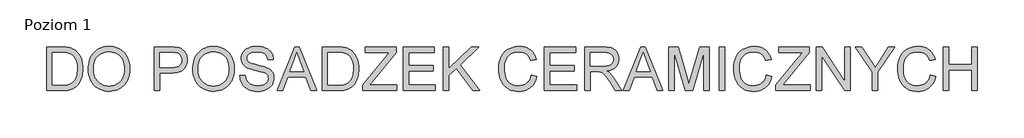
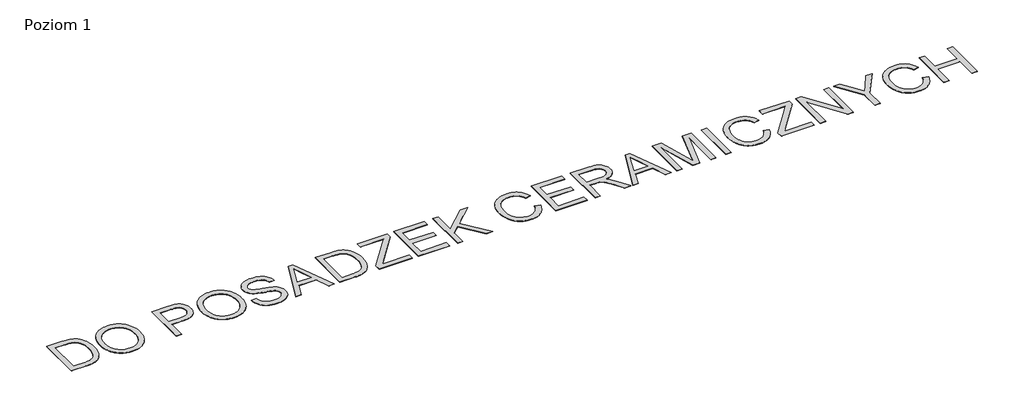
# One storey, part 2 of 4: 1 proxy.
"""IFC4 building model written with IfcOpenShell, lengths in millimetres."""

import ifcopenshell
import ifcopenshell.guid

model = None  # the IFC model being written
_history = None  # IfcOwnerHistory: only IFC2X3 demands one
_inside = {}  # id of a spatial element -> (the spatial element, [elements in it])
_under = {}  # id of a project, library or spatial element -> (it, [spatial elements below it])
_declared = {}  # id of a project -> (the project, [libraries it declares])
_typed = {}  # id of a type object -> (the type object, [elements of that type])
_made_of = {}  # id of a material, layer set ... -> (it, [elements and type objects made of it])


def new_model(schema):
    """Start an empty IFC model of exactly this schema.

    Asked for "IFC4X3", IfcOpenShell would pick the latest addendum, in which some entities
    have other attributes; the version numbers below select the first issue.
    IFC2X3 requires an IfcOwnerHistory on every rooted entity: one is made here for all.
    """
    global model, _history
    if schema == "IFC4X3":
        model = ifcopenshell.file(schema_version=(4, 3, 0, 0))
    else:
        model = ifcopenshell.file(schema=schema)
    _inside.clear()
    _under.clear()
    _declared.clear()
    _typed.clear()
    _made_of.clear()
    _history = None
    if model.schema == "IFC2X3":
        org = make("IfcOrganization", Name="unknown")
        user = make(
            "IfcPersonAndOrganization",
            ThePerson=make("IfcPerson", FamilyName="unknown"),
            TheOrganization=org,
        )
        app = make(
            "IfcApplication",
            ApplicationDeveloper=org,
            Version="unknown",
            ApplicationFullName="unknown",
            ApplicationIdentifier="unknown",
        )
        _history = make(
            "IfcOwnerHistory",
            OwningUser=user,
            OwningApplication=app,
            ChangeAction="ADDED",
            CreationDate=0,
        )
    return model


def make(cls, **values):
    """One entity of the class cls with the attributes given. An attribute that is None is left unset."""
    return model.create_entity(
        cls, **{name: value for name, value in values.items() if value is not None}
    )


def rooted(cls, **values):
    """An entity with a GlobalId (a new one), such as an element, a storey or a relation."""
    return make(cls, GlobalId=ifcopenshell.guid.new(), OwnerHistory=_history, **values)


def si_unit(unit_type, name, prefix=None):
    """IfcSIUnit, for example si_unit("LENGTHUNIT", "METRE", prefix="MILLI")."""
    return make("IfcSIUnit", UnitType=unit_type, Prefix=prefix, Name=name)


def assignment(units):
    """IfcUnitAssignment: the units of a project."""
    return None if units is None else make("IfcUnitAssignment", Units=units)


def point(xyz):
    """IfcCartesianPoint."""
    return None if xyz is None else make("IfcCartesianPoint", Coordinates=xyz)


def direction(xyz):
    """IfcDirection."""
    return None if xyz is None else make("IfcDirection", DirectionRatios=xyz)


def frame(location, z_axis=None, x_axis=None):
    """IfcAxis2Placement3D, a coordinate frame: its origin and axes. An axis left out is left unset."""
    return make(
        "IfcAxis2Placement3D",
        Location=point(location),
        Axis=direction(z_axis),
        RefDirection=direction(x_axis),
    )


def origin():
    """The frame at (0, 0, 0) with its axes left unset."""
    return frame((0.0, 0.0, 0.0))


def origin_with_axes():
    """The frame at (0, 0, 0) with the z axis (0, 0, 1) and the x axis (1, 0, 0) written out."""
    return frame((0.0, 0.0, 0.0), z_axis=(0.0, 0.0, 1.0), x_axis=(1.0, 0.0, 0.0))


def place(relative_to, where):
    """IfcLocalPlacement: puts the frame where relative to a parent placement (None: the world)."""
    return make(
        "IfcLocalPlacement", PlacementRelTo=relative_to, RelativePlacement=where
    )


def context(
    kind, dimensions, precision=None, world=None, true_north=None, identifier=None
):
    """IfcGeometricRepresentationContext, for example the 3D "Model" context."""
    return make(
        "IfcGeometricRepresentationContext",
        ContextIdentifier=identifier,
        ContextType=kind,
        CoordinateSpaceDimension=dimensions,
        Precision=precision,
        WorldCoordinateSystem=world,
        TrueNorth=true_north,
    )


def project(units=None, contexts=None):
    """IfcProject with its units and contexts."""
    return rooted(
        "IfcProject",
        Name="project",
        RepresentationContexts=contexts,
        UnitsInContext=assignment(units),
    )


def spatial(cls, under=None, at=None, **own):
    """A site, building, storey or space (cls), placed at a placement, below another one or the project."""
    s = rooted(cls, ObjectPlacement=at, **own)
    if under is not None:
        _under.setdefault(under.id(), (under, []))[1].append(s)
    return s


def polyline(points):
    """IfcPolyline through the points."""
    return make("IfcPolyline", Points=[point(p) for p in points])


def outline(outer, holes=None, kind="AREA"):
    """IfcArbitraryClosedProfileDef: a profile drawn as a closed curve; with holes, ...WithVoids."""
    if holes is None:
        return make("IfcArbitraryClosedProfileDef", ProfileType=kind, OuterCurve=outer)
    return make(
        "IfcArbitraryProfileDefWithVoids",
        ProfileType=kind,
        OuterCurve=outer,
        InnerCurves=holes,
    )


def extrude(swept, where, along, depth):
    """IfcExtrudedAreaSolid: the profile swept, set in the frame where, extruded along a direction by depth."""
    return make(
        "IfcExtrudedAreaSolid",
        SweptArea=swept,
        Position=where,
        ExtrudedDirection=direction(along),
        Depth=depth,
    )


def shape(context_of_items, identifier, shape_type, items):
    """IfcShapeRepresentation: the items that make up one representation, for example the "Body"."""
    return make(
        "IfcShapeRepresentation",
        ContextOfItems=context_of_items,
        RepresentationIdentifier=identifier,
        RepresentationType=shape_type,
        Items=items,
    )


def made_of(thing, what):
    """Note that an element or type object is made of a material, layer set ...; save() writes the relation."""
    if what is not None:
        _made_of.setdefault(what.id(), (what, []))[1].append(thing)
    return thing


def element(
    cls,
    number,
    at=None,
    inside=None,
    cuts=None,
    type_object=None,
    material=None,
    context=None,
    identifier="Body",
    shape_type=None,
    held_by="IfcProductDefinitionShape",
    body=None,
    shapes=None,
    **own,
):
    """One element of the class cls, such as IfcWall. Its Tag is "e" and its number.

    at: its placement. inside: the storey or other place that contains it. cuts: it is an
    opening in that element (IfcRelVoidsElement). A single representation is given by context,
    identifier, shape_type and body (its items); several are given by shapes. held_by: the class
    of the entity that holds the representations. save() writes the other relations.
    """
    e = rooted(cls, Tag="e%d" % number, ObjectPlacement=at, **own)
    if body is not None:
        shapes = [shape(context, identifier, shape_type, body)]
    if shapes is not None:
        e.Representation = make(held_by, Representations=shapes)
    if inside is not None:
        _inside.setdefault(inside.id(), (inside, []))[1].append(e)
    if cuts is not None:
        rooted(
            "IfcRelVoidsElement", RelatingBuildingElement=cuts, RelatedOpeningElement=e
        )
    if type_object is not None:
        _typed.setdefault(type_object.id(), (type_object, []))[1].append(e)
    return made_of(e, material)


def aggregate(whole, parts):
    """IfcRelAggregates: a whole, such as a stair, and the parts it consists of."""
    return rooted("IfcRelAggregates", RelatingObject=whole, RelatedObjects=parts)


def save(model, path):
    """Write the relations noted so far, then the file.

    IfcRelAggregates (storeys below a building ...), IfcRelContainedInSpatialStructure (elements
    in a storey), IfcRelDefinesByType, IfcRelAssociatesMaterial and IfcRelDeclares: one each for
    every whole, place, type object, material and project.
    """
    for whole, parts in _under.values():
        aggregate(whole, parts)
    for where, things in _inside.values():
        rooted(
            "IfcRelContainedInSpatialStructure",
            RelatedElements=things,
            RelatingStructure=where,
        )
    for kind, things in _typed.values():
        rooted("IfcRelDefinesByType", RelatedObjects=things, RelatingType=kind)
    for what, things in _made_of.values():
        rooted("IfcRelAssociatesMaterial", RelatedObjects=things, RelatingMaterial=what)
    for by, libraries in _declared.values():
        rooted("IfcRelDeclares", RelatingContext=by, RelatedDefinitions=libraries)
    model.write(path)


model = new_model("IFC4")

# Units and contexts
model_context = context("Model", 3, world=origin())
ifc_project = project(units=[si_unit("LENGTHUNIT", "METRE", prefix="MILLI")], contexts=[model_context])

# Site, building, storey
site = spatial("IfcSite", under=ifc_project)
building = spatial("IfcBuilding", under=site)
storey = spatial("IfcBuildingStorey", under=building, Name="Poziom 1", Elevation=0.0)

# Proxy
placement = place(None, origin())
element("IfcBuildingElementProxy", 1, Name="1500 mm Arial", ObjectType="1500 mm Arial", at=placement, inside=storey, context=model_context, shape_type="SweptSolid", body=[
    extrude(outline(polyline([(-106640.2444667, 68415.4638287), (-106640.2444667, 69922.3084809), (-106120.4272075, 69922.3084809), (-105965.0890351, 69916.8822215), (-105903.0779263, 69910.0993972), (-105851.5054691, 69900.6034432), (-105789.1034856, 69882.6921885), (-105731.3919976, 69858.7568662), (-105678.3710051, 69828.7974763), (-105630.040508, 69792.8140186), (-105574.1914226, 69738.9193063), (-105525.8379328, 69678.0348361), (-105484.9800387, 69610.160608), (-105451.6177403, 69535.296622), (-105425.7050523, 69454.1326568), (-105407.1959894, 69367.3584912), (-105396.0905516, 69274.9741251), (-105392.3887391, 69176.9795587), (-105394.8949352, 69093.6887757), (-105402.4135234, 69015.2494365), (-105414.9445039, 68941.6615412), (-105432.4878765, 68872.9250897), (-105453.962988, 68809.4769418), (-105478.2891849, 68751.7539575), (-105505.4664673, 68699.7561367), (-105535.4948352, 68653.4834795), (-105567.6845098, 68612.3841629), (-105601.3457123, 68575.9063638), (-105636.4784429, 68544.0500823), (-105673.0827014, 68516.8153183), (-105712.3426081, 68493.3973301), (-105755.4422831, 68472.9913757), (-105802.3817264, 68455.5974551), (-105853.160938, 68441.2155683), (-105907.8259033, 68429.9491822), (-105966.4226073, 68421.9017636), (-106028.9510502, 68417.0733124), (-106095.4112319, 68415.4638287), (-106640.2444667, 68415.4638287)]), holes=[polyline([(-106451.8888852, 68603.8194102), (-106118.5877976, 68603.8194102), (-106045.4942436, 68605.5208644), (-105980.7240199, 68610.6252271), (-105924.2771262, 68619.1324982), (-105876.1535627, 68631.0426778), (-105834.4449415, 68646.0568618), (-105797.2428748, 68663.8761459), (-105764.5473624, 68684.5005303), (-105736.3584046, 68707.9300148), (-105701.6050523, 68745.6954009), (-105670.9213947, 68789.461862), (-105644.3074316, 68839.2293982), (-105621.7631631, 68894.9980094), (-105603.8174195, 68956.8826587), (-105590.9990312, 69024.9983094), (-105583.3079983, 69099.3449614), (-105580.7443206, 69179.9226146), (-105585.7682091, 69289.2755377), (-105600.8398746, 69385.2007679), (-105612.1436237, 69428.1279983), (-105625.9593171, 69467.6983054), (-105642.2869547, 69503.9116893), (-105661.1265366, 69536.76815), (-105703.4904476, 69593.9738002), (-105750.1999646, 69640.8787546), (-105801.2550878, 69677.4830131), (-105856.655817, 69703.7865758), (-105904.5264616, 69716.9843423), (-105964.9970646, 69726.4113185), (-106038.0676259, 69732.0675041), (-106123.7381455, 69733.9528994), (-106451.8888852, 69733.9528994), (-106451.8888852, 68603.8194102)])]), origin_with_axes(), (0.0, 0.0, 1.0), 10.0),
    extrude(outline(polyline([(-105204.0331575, 69149.020527), (-105200.8946643, 69239.9276169), (-105191.4791845, 69325.7648331), (-105175.7867181, 69406.5321755), (-105153.8172652, 69482.2296442), (-105125.5708258, 69552.8572391), (-105091.0473998, 69618.4149603), (-105050.2469872, 69678.9028077), (-105003.1695882, 69734.3207814), (-104951.1315303, 69783.8986284), (-104895.4491415, 69826.8660958), (-104836.1224216, 69863.2231836), (-104773.1513707, 69892.9698918), (-104706.5359888, 69916.1062204), (-104636.2762759, 69932.6321694), (-104562.3722319, 69942.5477388), (-104484.823857, 69945.8529286), (-104433.4985705, 69944.3009264), (-104383.4493747, 69939.6449199), (-104334.6762695, 69931.8849091), (-104287.1792551, 69921.0208939), (-104240.9583313, 69907.0528744), (-104196.0134981, 69889.9808506), (-104152.3447557, 69869.8048224), (-104109.9521039, 69846.5247899), (-104069.4390992, 69820.468398), (-104031.4092979, 69791.9632915), (-103995.8627001, 69761.0094705), (-103962.7993058, 69727.606935), (-103932.219115, 69691.7556849), (-103904.1221276, 69653.4557203), (-103878.5083437, 69612.7070412), (-103855.3777632, 69569.5096475), (-103817.0720505, 69477.6771045), (-103789.7108271, 69379.866479), (-103773.2940931, 69276.0777711), (-103767.8218484, 69166.3109808), (-103773.5815009, 69055.0956551), (-103790.8604583, 68949.9043972), (-103803.8196764, 68899.5677935), (-103819.6587208, 68850.7372068), (-103838.3775913, 68803.412637), (-103859.9762882, 68757.5940842), (-103884.2162628, 68713.8966009), (-103910.8589666, 68672.93524), (-103939.9043998, 68634.7100015), (-103971.3525622, 68599.2208852), (-104005.2034539, 68566.4678914), (-104041.4570749, 68536.4510198), (-104080.1134252, 68509.1702706), (-104121.1725047, 68484.6256438), (-104207.3603584, 68444.0666538), (-104296.8821427, 68415.0959467), (-104389.7378575, 68397.7135224), (-104485.927503, 68391.919381), (-104538.2012352, 68393.5202425), (-104589.0724174, 68398.3228269), (-104638.5410494, 68406.3271344), (-104686.6071313, 68417.5331649), (-104733.2706632, 68431.9409183), (-104778.5316449, 68449.5503948), (-104822.3900765, 68470.3615942), (-104864.845958, 68494.3745166), (-104905.3359701, 68521.1551762), (-104943.2967935, 68550.2695873), (-104978.7284281, 68581.7177497), (-105011.6308741, 68615.4996635), (-105042.0041313, 68651.6153288), (-105069.8481998, 68690.0647454), (-105095.1630796, 68730.8479135), (-105117.9487707, 68773.964833), (-105155.6106899, 68863.8315066), (-105182.5120608, 68956.2963468), (-105198.6528834, 69051.3593536), (-105204.0331575, 69149.020527)]), holes=[polyline([(-105015.677576, 69147.1811171), (-105013.3237061, 69082.9914571), (-105006.2620962, 69022.3081723), (-104994.4927464, 68965.1312629), (-104978.0156568, 68911.4607287), (-104956.8308272, 68861.2965697), (-104930.9382577, 68814.638786), (-104900.3379483, 68771.4873776), (-104865.029899, 68731.8423445), (-104826.1694892, 68696.3187394), (-104784.9120982, 68665.5316149), (-104741.2577262, 68639.4809711), (-104695.206373, 68618.166808), (-104646.7580386, 68601.5891256), (-104595.9127232, 68589.7479239), (-104542.6704266, 68582.6432028), (-104487.0311489, 68580.2749625), (-104430.3744476, 68582.6661955), (-104376.2871721, 68589.8398944), (-104324.7693224, 68601.7960592), (-104275.8208985, 68618.53469), (-104229.4419004, 68640.0557867), (-104185.6323281, 68666.3593494), (-104144.3921816, 68697.445378), (-104105.7214609, 68733.3138725), (-104070.6720787, 68773.5797065), (-104040.2959474, 68817.8577535), (-104014.593067, 68866.1480135), (-103993.5634377, 68918.4504866), (-103977.2070593, 68974.7651726), (-103965.5239318, 69035.0920717), (-103958.5140554, 69099.4311837), (-103956.1774299, 69167.7825088), (-103960.1781466, 69253.9818588), (-103972.1802967, 69334.5250231), (-103992.1838802, 69409.4120018), (-104020.1888971, 69478.6427947), (-104055.8849469, 69541.3091933), (-104098.9616293, 69596.5029889), (-104149.4189442, 69644.2241815), (-104207.2568916, 69684.472771), (-104270.6820468, 69716.421023), (-104337.9009851, 69739.2412031), (-104408.9137065, 69752.9333111), (-104483.720211, 69757.4973471), (-104537.2183005, 69755.2986773), (-104588.8194985, 69748.7026681), (-104638.5238049, 69737.7093194), (-104686.3312198, 69722.3186313), (-104732.2417432, 69702.5306036), (-104776.255375, 69678.3452365), (-104818.3721153, 69649.76253), (-104858.5919641, 69616.7824839), (-104895.4089044, 69578.6635862), (-104927.3169193, 69534.6643248), (-104954.3160088, 69484.7846996), (-104976.406173, 69429.0247106), (-104993.5874118, 69367.3843579), (-105005.8597253, 69299.8636414), (-105013.2231133, 69226.4625611), (-105015.677576, 69147.1811171)])]), origin_with_axes(), (0.0, 0.0, 1.0), 10.0),
    extrude(outline(polyline([(-102920.2217315, 68415.4638287), (-102920.2217315, 69922.3084809), (-102361.7768628, 69922.3084809), (-102231.7305775, 69918.7216314), (-102136.6330818, 69907.9610831), (-102084.2213938, 69896.6602081), (-102036.2472823, 69881.1516827), (-101992.7107475, 69861.435507), (-101953.6117892, 69837.511681), (-101918.5365402, 69808.8858633), (-101887.0711333, 69775.0637123), (-101859.2155685, 69736.0452282), (-101834.9698457, 69691.8304109), (-101815.3341442, 69643.8792921), (-101801.3086432, 69593.6519035), (-101792.8933425, 69541.148245), (-101790.0882423, 69486.3683166), (-101791.9822598, 69439.1931989), (-101797.6643121, 69393.8689875), (-101807.1343994, 69350.3956823), (-101820.3925217, 69308.7732834), (-101837.4386788, 69269.0017909), (-101858.2728708, 69231.0812046), (-101882.8950978, 69195.0115246), (-101911.3053597, 69160.7927509), (-101944.6590359, 69129.5802629), (-101984.1115058, 69102.5294399), (-102029.6627694, 69079.640282), (-102081.3128267, 69060.9127892), (-102139.0616777, 69046.3469614), (-102202.9093225, 69035.9427988), (-102272.8557609, 69029.7003012), (-102348.900993, 69027.6194686), (-102731.86615, 69027.6194686), (-102731.86615, 68415.4638287), (-102920.2217315, 68415.4638287)]), holes=[polyline([(-102731.86615, 69215.9750502), (-102337.8645331, 69215.9750502), (-102247.2735918, 69220.2976636), (-102170.8461073, 69233.2655039), (-102137.9436614, 69242.9913842), (-102108.5820796, 69254.8785712), (-102082.7613621, 69268.9270648), (-102060.4815088, 69285.1368653), (-102024.5900216, 69323.2356444), (-101998.9532451, 69368.3701667), (-101983.5711791, 69420.5404321), (-101978.4438238, 69479.7464407), (-101981.467354, 69523.7083391), (-101990.5379444, 69564.3592996), (-102005.6555952, 69601.6993221), (-102026.8203062, 69635.7284067), (-102052.9054389, 69665.3429073), (-102082.7843547, 69689.439178), (-102116.4570536, 69708.0172187), (-102153.9235355, 69721.0770295), (-102226.5802296, 69730.7339319), (-102342.2791171, 69733.9528994), (-102731.86615, 69733.9528994), (-102731.86615, 69215.9750502)])]), origin_with_axes(), (0.0, 0.0, 1.0), 10.0),
    extrude(outline(polyline([(-101601.7326608, 69149.020527), (-101598.5941675, 69239.9276169), (-101589.1786877, 69325.7648331), (-101573.4862213, 69406.5321755), (-101551.5167684, 69482.2296442), (-101523.270329, 69552.8572391), (-101488.746903, 69618.4149603), (-101447.9464905, 69678.9028077), (-101400.8690914, 69734.3207814), (-101348.8310336, 69783.8986284), (-101293.1486447, 69826.8660958), (-101233.8219248, 69863.2231836), (-101170.8508739, 69892.9698918), (-101104.235492, 69916.1062204), (-101033.9757791, 69932.6321694), (-100960.0717352, 69942.5477388), (-100882.5233602, 69945.8529286), (-100831.1980737, 69944.3009264), (-100781.1488779, 69939.6449199), (-100732.3757728, 69931.8849091), (-100684.8787583, 69921.0208939), (-100638.6578345, 69907.0528744), (-100593.7130014, 69889.9808506), (-100550.0442589, 69869.8048224), (-100507.6516071, 69846.5247899), (-100467.1386024, 69820.468398), (-100429.1088011, 69791.9632915), (-100393.5622034, 69761.0094705), (-100360.498809, 69727.606935), (-100329.9186182, 69691.7556849), (-100301.8216308, 69653.4557203), (-100276.2078469, 69612.7070412), (-100253.0772665, 69569.5096475), (-100214.7715537, 69477.6771045), (-100187.4103303, 69379.866479), (-100170.9935963, 69276.0777711), (-100165.5213516, 69166.3109808), (-100171.2810041, 69055.0956551), (-100188.5599615, 68949.9043972), (-100201.5191796, 68899.5677935), (-100217.358224, 68850.7372068), (-100236.0770946, 68803.412637), (-100257.6757914, 68757.5940842), (-100281.915766, 68713.8966009), (-100308.5584699, 68672.93524), (-100337.603903, 68634.7100015), (-100369.0520654, 68599.2208852), (-100402.9029571, 68566.4678914), (-100439.1565781, 68536.4510198), (-100477.8129284, 68509.1702706), (-100518.872008, 68484.6256438), (-100605.0598617, 68444.0666538), (-100694.5816459, 68415.0959467), (-100787.4373608, 68397.7135224), (-100883.6270062, 68391.919381), (-100935.9007384, 68393.5202425), (-100986.7719206, 68398.3228269), (-101036.2405526, 68406.3271344), (-101084.3066346, 68417.5331649), (-101130.9701664, 68431.9409183), (-101176.2311481, 68449.5503948), (-101220.0895797, 68470.3615942), (-101262.5454612, 68494.3745166), (-101303.0354733, 68521.1551762), (-101340.9962967, 68550.2695873), (-101376.4279314, 68581.7177497), (-101409.3303773, 68615.4996635), (-101439.7036345, 68651.6153288), (-101467.547703, 68690.0647454), (-101492.8625828, 68730.8479135), (-101515.6482739, 68773.964833), (-101553.3101932, 68863.8315066), (-101580.2115641, 68956.2963468), (-101596.3523866, 69051.3593536), (-101601.7326608, 69149.020527)]), holes=[polyline([(-101413.3770792, 69147.1811171), (-101411.0232093, 69082.9914571), (-101403.9615994, 69022.3081723), (-101392.1922497, 68965.1312629), (-101375.71516, 68911.4607287), (-101354.5303304, 68861.2965697), (-101328.6377609, 68814.638786), (-101298.0374515, 68771.4873776), (-101262.7294022, 68731.8423445), (-101223.8689924, 68696.3187394), (-101182.6116015, 68665.5316149), (-101138.9572294, 68639.4809711), (-101092.9058762, 68618.166808), (-101044.4575419, 68601.5891256), (-100993.6122264, 68589.7479239), (-100940.3699299, 68582.6432028), (-100884.7306522, 68580.2749625), (-100828.0739508, 68582.6661955), (-100773.9866753, 68589.8398944), (-100722.4688256, 68601.7960592), (-100673.5204017, 68618.53469), (-100627.1414036, 68640.0557867), (-100583.3318313, 68666.3593494), (-100542.0916848, 68697.445378), (-100503.4209642, 68733.3138725), (-100468.3715819, 68773.5797065), (-100437.9954506, 68817.8577535), (-100412.2925703, 68866.1480135), (-100391.2629409, 68918.4504866), (-100374.9065625, 68974.7651726), (-100363.2234351, 69035.0920717), (-100356.2135586, 69099.4311837), (-100353.8769331, 69167.7825088), (-100357.8776498, 69253.9818588), (-100369.8797999, 69334.5250231), (-100389.8833834, 69409.4120018), (-100417.8884003, 69478.6427947), (-100453.5844501, 69541.3091933), (-100496.6611325, 69596.5029889), (-100547.1184474, 69644.2241815), (-100604.9563948, 69684.472771), (-100668.3815501, 69716.421023), (-100735.6004884, 69739.2412031), (-100806.6132098, 69752.9333111), (-100881.4197142, 69757.4973471), (-100934.9178037, 69755.2986773), (-100986.5190017, 69748.7026681), (-101036.2233082, 69737.7093194), (-101084.0307231, 69722.3186313), (-101129.9412464, 69702.5306036), (-101173.9548783, 69678.3452365), (-101216.0716185, 69649.76253), (-101256.2914673, 69616.7824839), (-101293.1084076, 69578.6635862), (-101325.0164225, 69534.6643248), (-101352.0155121, 69484.7846996), (-101374.1056763, 69429.0247106), (-101391.2869151, 69367.3843579), (-101403.5592285, 69299.8636414), (-101410.9226166, 69226.4625611), (-101413.3770792, 69147.1811171)])]), origin_with_axes(), (0.0, 0.0, 1.0), 10.0),
    extrude(outline(polyline([(-99977.1657701, 68933.4416779), (-99788.8101885, 68933.4416779), (-99780.1879543, 68878.6157643), (-99767.1971213, 68828.917206), (-99749.8376897, 68784.346003), (-99728.1096593, 68744.9021553), (-99700.9093843, 68709.7924174), (-99667.1332186, 68678.2235437), (-99626.7811623, 68650.1955342), (-99579.8532153, 68625.7083889), (-99528.0738245, 68605.8312648), (-99473.1674367, 68591.6333191), (-99415.1340519, 68583.1145516), (-99353.9736702, 68580.2749625), (-99299.8720243, 68582.4247729), (-99249.0353311, 68588.8742041), (-99201.4635906, 68599.6232562), (-99157.1568028, 68614.671929), (-99117.2071174, 68633.479896), (-99082.706684, 68655.5068305), (-99053.6555027, 68680.7527324), (-99030.0535735, 68709.2176018), (-99011.7859332, 68739.6713332), (-98998.7376186, 68770.8838212), (-98990.9086299, 68802.8550659), (-98988.298967, 68835.5850671), (-98990.2533401, 68868.1771127), (-98996.1164594, 68898.6308441), (-99005.8883249, 68926.9462614), (-99019.5689366, 68953.1233646), (-99039.2966086, 68977.3001095), (-99067.209655, 68999.6144517), (-99103.3080758, 69020.0663914), (-99147.5918709, 69038.6559285), (-99247.0579654, 69068.2244438), (-99421.8478984, 69110.5768585), (-99519.9689243, 69134.6616329), (-99601.8801497, 69158.1715917), (-99667.5815748, 69181.1067348), (-99717.0731995, 69203.4670623), (-99767.369566, 69233.4724376), (-99810.837123, 69266.834736), (-99847.4758705, 69303.5539576), (-99877.2858084, 69343.6301025), (-99900.3818999, 69386.6493033), (-99916.8791081, 69432.1976928), (-99926.777433, 69480.2752711), (-99930.0768747, 69530.882038), (-99925.9956838, 69586.972546), (-99913.7521112, 69641.2006513), (-99893.3461567, 69693.5663541), (-99864.7778205, 69744.0696542), (-99828.3689993, 69790.6527119), (-99784.4415898, 69831.2576871), (-99732.9955921, 69865.8845799), (-99674.031006, 69894.5333903), (-99609.5366938, 69916.9856883), (-99541.5015173, 69933.023044), (-99469.9254766, 69942.6454574), (-99394.8085717, 69945.8529286), (-99312.8628573, 69942.4960054), (-99235.8835498, 69932.4252358), (-99163.8706492, 69915.6406197), (-99096.8241556, 69892.1421573), (-99035.9856707, 69862.1367821), (-98982.5967961, 69825.8314277), (-98936.657532, 69783.2260941), (-98898.1678782, 69734.3207814), (-98867.426739, 69680.5410322), (-98844.7330184, 69623.3123893), (-98830.0867165, 69562.6348527), (-98823.4878332, 69498.5084225), (-99011.8434147, 69498.5084225), (-99024.4433731, 69558.6111434), (-99046.4243223, 69610.896372), (-99077.7862624, 69655.3641082), (-99118.5291933, 69692.0143519), (-99169.4118718, 69720.6631623), (-99231.1930544, 69741.1265983), (-99303.872741, 69753.4046599), (-99387.4509318, 69757.4973471), (-99473.696267, 69753.4506451), (-99547.3876292, 69741.3105393), (-99608.5250183, 69721.0770295), (-99634.3859729, 69707.9252482), (-99657.1084343, 69692.7501159), (-99694.12656, 69658.6980387), (-99720.5680784, 69621.2890383), (-99736.4329895, 69580.5231148), (-99741.7212932, 69536.400268), (-99737.9734953, 69498.4394446), (-99726.7301019, 69464.0194854), (-99707.9911127, 69433.1403904), (-99681.7565279, 69405.8021597), (-99640.461774, 69379.9124643), (-99575.4386313, 69353.7468574), (-99486.6871, 69327.305339), (-99374.20718, 69300.5879091), (-99260.1177762, 69274.5372653), (-99166.5377937, 69250.0961052), (-99093.4672324, 69227.2644289), (-99040.9060923, 69206.0422363), (-98983.1601154, 69173.8755543), (-98933.530535, 69137.7081557), (-98892.0173511, 69097.5400403), (-98858.6205637, 69053.3712083), (-98832.9492983, 69005.4315858), (-98814.6126801, 68953.9510991), (-98803.6107091, 68898.9297482), (-98799.9433855, 68840.3675331), (-98804.1625321, 68781.4489323), (-98816.819972, 68724.2547784), (-98837.9157052, 68668.7850713), (-98867.4497316, 68615.039811), (-98904.9047173, 68565.0998302), (-98949.763328, 68521.0459613), (-99002.025564, 68482.8782043), (-99061.6914251, 68450.5965592), (-99127.0249682, 68424.9252937), (-99196.2902501, 68406.5886755), (-99269.4872708, 68395.5867046), (-99346.6160303, 68391.919381), (-99442.9666241, 68395.8741124), (-99531.1548362, 68407.7383068), (-99611.1806664, 68427.511964), (-99683.0441149, 68455.1950841), (-99747.1820415, 68490.8336524), (-99804.0313061, 68534.4736541), (-99853.5919086, 68586.1150892), (-99895.8638491, 68645.7579576), (-99929.9159263, 68711.470879), (-99954.8169389, 68781.3224729), (-99970.5668868, 68855.3127391), (-99977.1657701, 68933.4416779)])), origin_with_axes(), (0.0, 0.0, 1.0), 10.0),
    extrude(outline(polyline([(-98692.8897249, 68415.4638287), (-98091.4026628, 69922.3084809), (-97931.0061129, 69922.3084809), (-97329.5190508, 68415.4638287), (-97528.5432102, 68415.4638287), (-97701.0798659, 68886.3527825), (-98321.6967918, 68886.3527825), (-98493.8655655, 68415.4638287), (-98692.8897249, 68415.4638287)]), holes=[polyline([(-98252.5349767, 69074.708364), (-97769.873799, 69074.708364), (-97905.6222552, 69445.1655332), (-98011.2043878, 69733.9528994), (-98105.0142966, 69477.5391487), (-98252.5349767, 69074.708364)])]), origin_with_axes(), (0.0, 0.0, 1.0), 10.0),
    extrude(outline(polyline([(-97128.2875994, 68415.4638287), (-97128.2875994, 69922.3084809), (-96608.4703402, 69922.3084809), (-96453.1321678, 69916.8822215), (-96391.121059, 69910.0993972), (-96339.5486018, 69900.6034432), (-96277.1466183, 69882.6921885), (-96219.4351303, 69858.7568662), (-96166.4141378, 69828.7974763), (-96118.0836407, 69792.8140186), (-96062.2345553, 69738.9193063), (-96013.8810655, 69678.0348361), (-95973.0231714, 69610.160608), (-95939.660873, 69535.296622), (-95913.748185, 69454.1326568), (-95895.2391221, 69367.3584912), (-95884.1336844, 69274.9741251), (-95880.4318718, 69176.9795587), (-95882.9380679, 69093.6887757), (-95890.4566562, 69015.2494365), (-95902.9876366, 68941.6615412), (-95920.5310093, 68872.9250897), (-95942.0061207, 68809.4769418), (-95966.3323177, 68751.7539575), (-95993.5096, 68699.7561367), (-96023.5379679, 68653.4834795), (-96055.7276425, 68612.3841629), (-96089.388845, 68575.9063638), (-96124.5215756, 68544.0500823), (-96161.1258341, 68516.8153183), (-96200.3857408, 68493.3973301), (-96243.4854158, 68472.9913757), (-96290.4248591, 68455.5974551), (-96341.2040707, 68441.2155683), (-96395.869036, 68429.9491822), (-96454.46574, 68421.9017636), (-96516.9941829, 68417.0733124), (-96583.4543646, 68415.4638287), (-97128.2875994, 68415.4638287)]), holes=[polyline([(-96939.9320179, 68603.8194102), (-96606.6309303, 68603.8194102), (-96533.5373763, 68605.5208644), (-96468.7671526, 68610.6252271), (-96412.3202589, 68619.1324982), (-96364.1966954, 68631.0426778), (-96322.4880742, 68646.0568618), (-96285.2860075, 68663.8761459), (-96252.5904952, 68684.5005303), (-96224.4015373, 68707.9300148), (-96189.648185, 68745.6954009), (-96158.9645274, 68789.461862), (-96132.3505643, 68839.2293982), (-96109.8062958, 68894.9980094), (-96091.8605522, 68956.8826587), (-96079.0421639, 69024.9983094), (-96071.351131, 69099.3449614), (-96068.7874533, 69179.9226146), (-96073.8113418, 69289.2755377), (-96088.8830073, 69385.2007679), (-96100.1867564, 69428.1279983), (-96114.0024498, 69467.6983054), (-96130.3300874, 69503.9116893), (-96149.1696693, 69536.76815), (-96191.5335803, 69593.9738002), (-96238.2430973, 69640.8787546), (-96289.2982205, 69677.4830131), (-96344.6989497, 69703.7865758), (-96392.5695943, 69716.9843423), (-96453.0401973, 69726.4113185), (-96526.1107586, 69732.0675041), (-96611.7812782, 69733.9528994), (-96939.9320179, 69733.9528994), (-96939.9320179, 68603.8194102)])]), origin_with_axes(), (0.0, 0.0, 1.0), 10.0),
    extrude(outline(polyline([(-95739.1651856, 68415.4638287), (-95739.1651856, 68610.8091681), (-94968.4524057, 69554.4264857), (-94822.0353717, 69733.9528994), (-95644.9873949, 69733.9528994), (-95644.9873949, 69922.3084809), (-94585.4872488, 69922.3084809), (-94585.4872488, 69733.9528994), (-95429.0406637, 68701.3081389), (-95508.5031747, 68603.8194102), (-94561.9428011, 68603.8194102), (-94561.9428011, 68415.4638287), (-95739.1651856, 68415.4638287)])), origin_with_axes(), (0.0, 0.0, 1.0), 10.0),
    extrude(outline(polyline([(-94350.0427718, 68415.4638287), (-94350.0427718, 69922.3084809), (-93266.998178, 69922.3084809), (-93266.998178, 69733.9528994), (-94161.6871903, 69733.9528994), (-94161.6871903, 69286.6083932), (-93314.0870734, 69286.6083932), (-93314.0870734, 69098.2528117), (-94161.6871903, 69098.2528117), (-94161.6871903, 68603.8194102), (-93243.4537304, 68603.8194102), (-93243.4537304, 68415.4638287), (-94350.0427718, 68415.4638287)])), origin_with_axes(), (0.0, 0.0, 1.0), 10.0),
    extrude(outline(polyline([(-92960.9203581, 68415.4638287), (-92960.9203581, 69922.3084809), (-92772.5647765, 69922.3084809), (-92772.5647765, 69184.7050806), (-92000.0125867, 69922.3084809), (-91736.6090781, 69922.3084809), (-92385.1850356, 69302.795201), (-91713.0646304, 68415.4638287), (-91943.3587594, 68415.4638287), (-92518.7261999, 69175.5080307), (-92772.5647765, 68933.4416779), (-92772.5647765, 68415.4638287), (-92960.9203581, 68415.4638287)])), origin_with_axes(), (0.0, 0.0, 1.0), 10.0),
    extrude(outline(polyline([(-89923.6866059, 68951.1000136), (-89735.3310243, 68902.5395903), (-89752.4202927, 68842.1235948), (-89772.602069, 68785.4036637), (-89795.8763533, 68732.3797971), (-89822.2431457, 68683.0519949), (-89851.7024461, 68637.4202571), (-89884.2542545, 68595.4845837), (-89919.898571, 68557.2449748), (-89958.6353954, 68522.7014303), (-90000.0451125, 68492.0493875), (-90043.7081068, 68465.4842837), (-90089.6243783, 68443.006119), (-90137.7939271, 68424.6148933), (-90188.216753, 68410.3106066), (-90240.8928562, 68400.093259), (-90295.8222366, 68393.9628505), (-90353.0048943, 68391.919381), (-90411.8401468, 68393.465635), (-90467.8645509, 68398.104397), (-90521.0781067, 68405.8356671), (-90571.4808141, 68416.6594451), (-90619.0726732, 68430.5757312), (-90663.8536839, 68447.5845254), (-90705.8238462, 68467.6858275), (-90744.9831601, 68490.8796377), (-90781.6104113, 68517.0050075), (-90815.9843852, 68545.9009886), (-90848.1050819, 68577.5675809), (-90877.9725014, 68612.0047846), (-90905.5866436, 68649.2125995), (-90930.9475087, 68689.1910257), (-90954.0550965, 68731.9400632), (-90974.9094071, 68777.4597119), (-91009.4328331, 68872.9940675), (-91034.0924231, 68971.9773169), (-91048.8881771, 69074.4094599), (-91053.8200951, 69180.2904966), (-91048.2443836, 69293.8970553), (-91031.5172491, 69400.0080182), (-91018.9718983, 69450.2526514), (-91003.6386917, 69498.6233856), (-90985.5176293, 69545.1202209), (-90964.6087112, 69589.7431573), (-90941.1303673, 69632.1156905), (-90915.3010276, 69671.8613164), (-90887.1206919, 69708.9800349), (-90856.5893604, 69743.471846), (-90823.707033, 69775.3367498), (-90788.4737097, 69804.5747461), (-90750.8893906, 69831.1858351), (-90710.9540756, 69855.1700168), (-90626.6631134, 69894.8437907), (-90538.2334788, 69923.1822006), (-90445.6651718, 69940.1852466), (-90348.9581923, 69945.8529286), (-90293.9742044, 69944.0192668), (-90241.2262493, 69938.5182813), (-90190.7143269, 69929.3499722), (-90142.4384373, 69916.5143395), (-90096.3985804, 69900.0113831), (-90052.5947563, 69879.8411031), (-90011.0269649, 69856.0034994), (-89971.6952063, 69828.4985721), (-89934.9328734, 69797.6654624), (-89901.0733595, 69763.8433115), (-89870.1166644, 69727.0321193), (-89842.0627882, 69687.231886), (-89816.9117309, 69644.4426114), (-89794.6634924, 69598.6642956), (-89775.3180728, 69549.8969387), (-89758.875472, 69498.1405405), (-89947.2310536, 69453.2589371), (-89976.8915394, 69527.3296775), (-90012.5301077, 69590.616877), (-90054.1467584, 69643.1205355), (-90101.7414915, 69684.840653), (-90155.5902186, 69716.6279567), (-90215.968851, 69739.3331736), (-90282.8773889, 69752.9563037), (-90356.3158322, 69757.4973471), (-90440.813728, 69752.4619623), (-90518.0919396, 69737.3558078), (-90588.150467, 69712.1788838), (-90650.9893103, 69676.9311901), (-90705.8152239, 69633.1992179), (-90751.8349623, 69582.5694584), (-90789.0485253, 69525.0419114), (-90817.4559132, 69460.616577), (-90838.4596758, 69392.2135185), (-90853.4623634, 69322.7527993), (-90862.463976, 69252.2344193), (-90865.4645135, 69180.6583786), (-90861.912153, 69090.7112308), (-90851.2550715, 69006.6501949), (-90833.4932689, 68928.4752709), (-90808.6267453, 68856.1864589), (-90776.2531297, 68791.2207978), (-90735.9700512, 68735.0153267), (-90687.7775099, 68687.5700457), (-90631.6755056, 68648.8849546), (-90570.3886645, 68618.8680831), (-90506.6416125, 68597.4274605), (-90440.4343497, 68584.563087), (-90371.766876, 68580.2749625), (-90289.8786431, 68586.1150892), (-90251.3918635, 68593.4152475), (-90214.5433083, 68603.6354692), (-90179.3329777, 68616.7757542), (-90145.7608715, 68632.8361026), (-90113.8269899, 68651.8165142), (-90083.5313328, 68673.7169893), (-90055.2417822, 68698.4915424), (-90029.3262201, 68726.0941883), (-90005.7846464, 68756.5249271), (-89984.6170613, 68789.7837588), (-89965.8234647, 68825.8706832), (-89949.4038566, 68864.7857005), (-89923.6866059, 68951.1000136)])), origin_with_axes(), (0.0, 0.0, 1.0), 10.0),
    extrude(outline(polyline([(-89476.3420997, 68415.4638287), (-89476.3420997, 69922.3084809), (-88393.2975059, 69922.3084809), (-88393.2975059, 69733.9528994), (-89287.9865182, 69733.9528994), (-89287.9865182, 69286.6083932), (-88440.3864013, 69286.6083932), (-88440.3864013, 69098.2528117), (-89287.9865182, 69098.2528117), (-89287.9865182, 68603.8194102), (-88369.7530583, 68603.8194102), (-88369.7530583, 68415.4638287), (-89476.3420997, 68415.4638287)])), origin_with_axes(), (0.0, 0.0, 1.0), 10.0),
    extrude(outline(polyline([(-88087.219686, 68415.4638287), (-88087.219686, 69922.3084809), (-87437.9079645, 69922.3084809), (-87344.7073603, 69919.7677959), (-87263.393943, 69912.1457408), (-87193.9677127, 69899.4423156), (-87136.4286694, 69881.6575204), (-87087.4313862, 69857.423294), (-87043.6304361, 69825.3715752), (-87005.0258193, 69785.5023639), (-86971.6175356, 69737.8156603), (-86944.6586831, 69684.875142), (-86925.4023599, 69629.2444865), (-86913.848566, 69570.9236939), (-86909.9973014, 69509.9127643), (-86911.5924147, 69470.4229314), (-86916.3777547, 69432.5195896), (-86924.3533214, 69396.2027389), (-86935.5191148, 69361.4723793), (-86949.8751349, 69328.3285108), (-86967.4213816, 69296.7711334), (-86988.157855, 69266.8002471), (-87012.0845551, 69238.4158519), (-87039.3451857, 69212.0835484), (-87070.0834509, 69188.2689374), (-87104.2993505, 69166.9720188), (-87141.9928846, 69148.1927926), (-87183.1640532, 69131.9312587), (-87227.8128563, 69118.1874173), (-87327.5433659, 69098.2528117), (-87265.4632792, 69057.6938217), (-87220.4897053, 69017.6866548), (-87143.3264568, 68926.1760085), (-87067.8186773, 68823.8128433), (-86816.5552746, 68415.4638287), (-87035.4450617, 68415.4638287), (-87231.5261652, 68727.7956426), (-87309.9770006, 68846.989409), (-87373.1607333, 68934.5453239), (-87425.8138439, 68994.8319858), (-87449.9675961, 69016.3875715), (-87472.672813, 69032.2179936), (-87517.0485787, 69054.1529575), (-87562.2520788, 69068.0864881), (-87606.3059478, 69073.052895), (-87671.5130314, 69074.708364), (-87898.8641044, 69074.708364), (-87898.8641044, 68415.4638287), (-88087.219686, 68415.4638287)]), holes=[polyline([(-87898.8641044, 69263.0639455), (-87477.271338, 69263.0639455), (-87413.340345, 69264.7309108), (-87356.1921763, 69269.7318067), (-87305.8268319, 69278.0666332), (-87262.2443118, 69289.7353902), (-87224.4674294, 69305.0714709), (-87191.5189982, 69324.4082682), (-87163.3990182, 69347.7457823), (-87140.1074894, 69375.0840131), (-87121.8398491, 69405.077892), (-87108.7915345, 69436.3823505), (-87100.9625458, 69468.9973887), (-87098.3528829, 69502.9230064), (-87103.3307862, 69551.0925551), (-87118.2644959, 69594.8015347), (-87143.1540121, 69634.0499451), (-87177.9993349, 69668.8377862), (-87199.3566091, 69684.0991409), (-87223.605206, 69697.3256482), (-87280.7763673, 69717.6741211), (-87349.5128188, 69729.8832048), (-87429.8145606, 69733.9528994), (-87898.8641044, 69733.9528994), (-87898.8641044, 69263.0639455)])]), origin_with_axes(), (0.0, 0.0, 1.0), 10.0),
    extrude(outline(polyline([(-86755.8547454, 68415.4638287), (-86154.3676833, 69922.3084809), (-85993.9711334, 69922.3084809), (-85392.4840713, 68415.4638287), (-85591.5082307, 68415.4638287), (-85764.0448864, 68886.3527825), (-86384.6618123, 68886.3527825), (-86556.830586, 68415.4638287), (-86755.8547454, 68415.4638287)]), holes=[polyline([(-86315.4999972, 69074.708364), (-85832.8388195, 69074.708364), (-85968.5872757, 69445.1655332), (-86074.1694083, 69733.9528994), (-86167.9793171, 69477.5391487), (-86315.4999972, 69074.708364)])]), origin_with_axes(), (0.0, 0.0, 1.0), 10.0),
    extrude(outline(polyline([(-85191.2526199, 68415.4638287), (-85191.2526199, 69922.3084809), (-84867.1485822, 69922.3084809), (-84558.8634702, 68860.2331608), (-84496.691413, 68638.4003177), (-84429.3690079, 68878.6272606), (-84126.2342439, 69922.3084809), (-83802.1302061, 69922.3084809), (-83802.1302061, 68415.4638287), (-83990.4857877, 68415.4638287), (-83990.4857877, 69733.9528994), (-84369.0363607, 68415.4638287), (-84624.3464654, 68415.4638287), (-85002.8970384, 69733.9528994), (-85002.8970384, 68415.4638287), (-85191.2526199, 68415.4638287)])), origin_with_axes(), (0.0, 0.0, 1.0), 10.0),
    extrude(outline(polyline([(-83448.9634908, 68415.4638287), (-83448.9634908, 69922.3084809), (-83260.6079092, 69922.3084809), (-83260.6079092, 68415.4638287), (-83448.9634908, 68415.4638287)])), origin_with_axes(), (0.0, 0.0, 1.0), 10.0),
    extrude(outline(polyline([(-81824.3966001, 68951.1000136), (-81636.0410185, 68902.5395903), (-81653.1302868, 68842.1235948), (-81673.3120632, 68785.4036637), (-81696.5863475, 68732.3797971), (-81722.9531399, 68683.0519949), (-81752.4124403, 68637.4202571), (-81784.9642487, 68595.4845837), (-81820.6085651, 68557.2449748), (-81859.3453896, 68522.7014303), (-81900.7551067, 68492.0493875), (-81944.418101, 68465.4842837), (-81990.3343725, 68443.006119), (-82038.5039213, 68424.6148933), (-82088.9267472, 68410.3106066), (-82141.6028504, 68400.093259), (-82196.5322308, 68393.9628505), (-82253.7148884, 68391.919381), (-82312.550141, 68393.465635), (-82368.5745451, 68398.104397), (-82421.7881009, 68405.8356671), (-82472.1908083, 68416.6594451), (-82519.7826674, 68430.5757312), (-82564.5636781, 68447.5845254), (-82606.5338404, 68467.6858275), (-82645.6931543, 68490.8796377), (-82682.3204054, 68517.0050075), (-82716.6943794, 68545.9009886), (-82748.8150761, 68577.5675809), (-82778.6824956, 68612.0047846), (-82806.2966378, 68649.2125995), (-82831.6575029, 68689.1910257), (-82854.7650907, 68731.9400632), (-82875.6194013, 68777.4597119), (-82910.1428273, 68872.9940675), (-82934.8024173, 68971.9773169), (-82949.5981713, 69074.4094599), (-82954.5300893, 69180.2904966), (-82948.9543778, 69293.8970553), (-82932.2272433, 69400.0080182), (-82919.6818924, 69450.2526514), (-82904.3486858, 69498.6233856), (-82886.2276235, 69545.1202209), (-82865.3187054, 69589.7431573), (-82841.8403615, 69632.1156905), (-82816.0110218, 69671.8613164), (-82787.8306861, 69708.9800349), (-82757.2993546, 69743.471846), (-82724.4170272, 69775.3367498), (-82689.1837039, 69804.5747461), (-82651.5993848, 69831.1858351), (-82611.6640697, 69855.1700168), (-82527.3731076, 69894.8437907), (-82438.943473, 69923.1822006), (-82346.375166, 69940.1852466), (-82249.6681865, 69945.8529286), (-82194.6841986, 69944.0192668), (-82141.9362435, 69938.5182813), (-82091.4243211, 69929.3499722), (-82043.1484314, 69916.5143395), (-81997.1085746, 69900.0113831), (-81953.3047504, 69879.8411031), (-81911.7369591, 69856.0034994), (-81872.4052004, 69828.4985721), (-81835.6428676, 69797.6654624), (-81801.7833537, 69763.8433115), (-81770.8266586, 69727.0321193), (-81742.7727824, 69687.231886), (-81717.621725, 69644.4426114), (-81695.3734866, 69598.6642956), (-81676.028067, 69549.8969387), (-81659.5854662, 69498.1405405), (-81847.9410478, 69453.2589371), (-81877.6015336, 69527.3296775), (-81913.2401019, 69590.616877), (-81954.8567526, 69643.1205355), (-82002.4514857, 69684.840653), (-82056.3002128, 69716.6279567), (-82116.6788452, 69739.3331736), (-82183.5873831, 69752.9563037), (-82257.0258264, 69757.4973471), (-82341.5237222, 69752.4619623), (-82418.8019338, 69737.3558078), (-82488.8604612, 69712.1788838), (-82551.6993045, 69676.9311901), (-82606.5252181, 69633.1992179), (-82652.5449565, 69582.5694584), (-82689.7585195, 69525.0419114), (-82718.1659073, 69460.616577), (-82739.16967, 69392.2135185), (-82754.1723576, 69322.7527993), (-82763.1739702, 69252.2344193), (-82766.1745077, 69180.6583786), (-82762.6221472, 69090.7112308), (-82751.9650657, 69006.6501949), (-82734.2032631, 68928.4752709), (-82709.3367395, 68856.1864589), (-82676.9631239, 68791.2207978), (-82636.6800454, 68735.0153267), (-82588.487504, 68687.5700457), (-82532.3854998, 68648.8849546), (-82471.0986587, 68618.8680831), (-82407.3516067, 68597.4274605), (-82341.1443439, 68584.563087), (-82272.4768702, 68580.2749625), (-82190.5886373, 68586.1150892), (-82152.1018577, 68593.4152475), (-82115.2533025, 68603.6354692), (-82080.0429719, 68616.7757542), (-82046.4708657, 68632.8361026), (-82014.5369841, 68651.8165142), (-81984.241327, 68673.7169893), (-81955.9517764, 68698.4915424), (-81930.0362142, 68726.0941883), (-81906.4946406, 68756.5249271), (-81885.3270555, 68789.7837588), (-81866.5334589, 68825.8706832), (-81850.1138508, 68864.7857005), (-81824.3966001, 68951.1000136)])), origin_with_axes(), (0.0, 0.0, 1.0), 10.0),
    extrude(outline(polyline([(-81494.7743324, 68415.4638287), (-81494.7743324, 68610.8091681), (-80724.0615525, 69554.4264857), (-80577.6445184, 69733.9528994), (-81400.5965416, 69733.9528994), (-81400.5965416, 69922.3084809), (-80341.0963955, 69922.3084809), (-80341.0963955, 69733.9528994), (-81184.6498105, 68701.3081389), (-81264.1123214, 68603.8194102), (-80317.5519478, 68603.8194102), (-80317.5519478, 68415.4638287), (-81494.7743324, 68415.4638287)])), origin_with_axes(), (0.0, 0.0, 1.0), 10.0),
    extrude(outline(polyline([(-80105.6519186, 68415.4638287), (-80105.6519186, 69922.3084809), (-79904.0525852, 69922.3084809), (-79116.7851156, 68728.5314066), (-79116.7851156, 69922.3084809), (-78928.429534, 69922.3084809), (-78928.429534, 68415.4638287), (-79130.0288674, 68415.4638287), (-79917.2963371, 69609.608785), (-79917.2963371, 68415.4638287), (-80105.6519186, 68415.4638287)])), origin_with_axes(), (0.0, 0.0, 1.0), 10.0),
    extrude(outline(polyline([(-78175.0072079, 68415.4638287), (-78175.0072079, 69053.7390903), (-78763.6184002, 69922.3084809), (-78541.4176751, 69922.3084809), (-78227.2464512, 69458.409285), (-78066.4820193, 69221.8611621), (-77905.3497054, 69475.3318568), (-77620.2411592, 69922.3084809), (-77398.0404341, 69922.3084809), (-77986.6516264, 69053.7390903), (-77986.6516264, 68415.4638287), (-78175.0072079, 68415.4638287)])), origin_with_axes(), (0.0, 0.0, 1.0), 10.0),
    extrude(outline(polyline([(-76173.7291542, 68951.1000136), (-75985.3735726, 68902.5395903), (-76002.4628409, 68842.1235948), (-76022.6446173, 68785.4036637), (-76045.9189016, 68732.3797971), (-76072.285694, 68683.0519949), (-76101.7449944, 68637.4202571), (-76134.2968028, 68595.4845837), (-76169.9411192, 68557.2449748), (-76208.6779437, 68522.7014303), (-76250.0876608, 68492.0493875), (-76293.7506551, 68465.4842837), (-76339.6669266, 68443.006119), (-76387.8364753, 68424.6148933), (-76438.2593013, 68410.3106066), (-76490.9354045, 68400.093259), (-76545.8647849, 68393.9628505), (-76603.0474425, 68391.919381), (-76661.882695, 68393.465635), (-76717.9070992, 68398.104397), (-76771.120655, 68405.8356671), (-76821.5233624, 68416.6594451), (-76869.1152215, 68430.5757312), (-76913.8962321, 68447.5845254), (-76955.8663944, 68467.6858275), (-76995.0257084, 68490.8796377), (-77031.6529595, 68517.0050075), (-77066.0269335, 68545.9009886), (-77098.1476302, 68577.5675809), (-77128.0150496, 68612.0047846), (-77155.6291919, 68649.2125995), (-77180.9900569, 68689.1910257), (-77204.0976448, 68731.9400632), (-77224.9519554, 68777.4597119), (-77259.4753814, 68872.9940675), (-77284.1349713, 68971.9773169), (-77298.9307253, 69074.4094599), (-77303.8626433, 69180.2904966), (-77298.2869318, 69293.8970553), (-77281.5597974, 69400.0080182), (-77269.0144465, 69450.2526514), (-77253.6812399, 69498.6233856), (-77235.5601776, 69545.1202209), (-77214.6512595, 69589.7431573), (-77191.1729156, 69632.1156905), (-77165.3435758, 69671.8613164), (-77137.1632402, 69708.9800349), (-77106.6319087, 69743.471846), (-77073.7495813, 69775.3367498), (-77038.516258, 69804.5747461), (-77000.9319389, 69831.1858351), (-76960.9966238, 69855.1700168), (-76876.7056617, 69894.8437907), (-76788.2760271, 69923.1822006), (-76695.7077201, 69940.1852466), (-76599.0007406, 69945.8529286), (-76544.0167527, 69944.0192668), (-76491.2687976, 69938.5182813), (-76440.7568752, 69929.3499722), (-76392.4809855, 69916.5143395), (-76346.4411287, 69900.0113831), (-76302.6373045, 69879.8411031), (-76261.0695131, 69856.0034994), (-76221.7377545, 69828.4985721), (-76184.9754217, 69797.6654624), (-76151.1159078, 69763.8433115), (-76120.1592127, 69727.0321193), (-76092.1053365, 69687.231886), (-76066.9542791, 69644.4426114), (-76044.7060407, 69598.6642956), (-76025.3606211, 69549.8969387), (-76008.9180203, 69498.1405405), (-76197.2736018, 69453.2589371), (-76226.9340877, 69527.3296775), (-76262.572656, 69590.616877), (-76304.1893067, 69643.1205355), (-76351.7840398, 69684.840653), (-76405.6327669, 69716.6279567), (-76466.0113993, 69739.3331736), (-76532.9199372, 69752.9563037), (-76606.3583805, 69757.4973471), (-76690.8562762, 69752.4619623), (-76768.1344879, 69737.3558078), (-76838.1930153, 69712.1788838), (-76901.0318586, 69676.9311901), (-76955.8577722, 69633.1992179), (-77001.8775105, 69582.5694584), (-77039.0910736, 69525.0419114), (-77067.4984614, 69460.616577), (-77088.5022241, 69392.2135185), (-77103.5049117, 69322.7527993), (-77112.5065243, 69252.2344193), (-77115.5070618, 69180.6583786), (-77111.9547013, 69090.7112308), (-77101.2976197, 69006.6501949), (-77083.5358172, 68928.4752709), (-77058.6692935, 68856.1864589), (-77026.295678, 68791.2207978), (-76986.0125995, 68735.0153267), (-76937.8200581, 68687.5700457), (-76881.7180539, 68648.8849546), (-76820.4312127, 68618.8680831), (-76756.6841608, 68597.4274605), (-76690.4768979, 68584.563087), (-76621.8094243, 68580.2749625), (-76539.9211914, 68586.1150892), (-76501.4344117, 68593.4152475), (-76464.5858566, 68603.6354692), (-76429.3755259, 68616.7757542), (-76395.8034198, 68632.8361026), (-76363.8695382, 68651.8165142), (-76333.5738811, 68673.7169893), (-76305.2843304, 68698.4915424), (-76279.3687683, 68726.0941883), (-76255.8271947, 68756.5249271), (-76234.6596096, 68789.7837588), (-76215.866013, 68825.8706832), (-76199.4464049, 68864.7857005), (-76173.7291542, 68951.1000136)])), origin_with_axes(), (0.0, 0.0, 1.0), 10.0),
    extrude(outline(polyline([(-75726.384648, 68415.4638287), (-75726.384648, 69922.3084809), (-75538.0290665, 69922.3084809), (-75538.0290665, 69310.1528409), (-74737.517845, 69310.1528409), (-74737.517845, 69922.3084809), (-74549.1622635, 69922.3084809), (-74549.1622635, 68415.4638287), (-74737.517845, 68415.4638287), (-74737.517845, 69121.7972594), (-75538.0290665, 69121.7972594), (-75538.0290665, 68415.4638287), (-75726.384648, 68415.4638287)])), origin_with_axes(), (0.0, 0.0, 1.0), 10.0),
])

save(model, "model.ifc")
